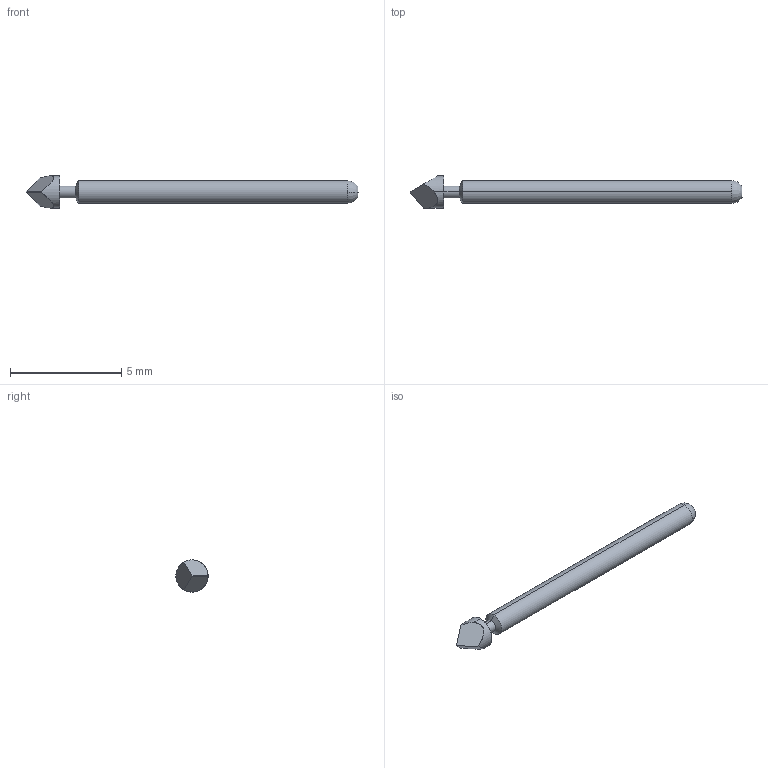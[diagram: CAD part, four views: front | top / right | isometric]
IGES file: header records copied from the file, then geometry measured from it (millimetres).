
Start section: SolidWorks IGES file using analytic representation for surfaces
Global section: file name: Z:\probe solid model mockups\Solidworks models\IGES Files\HPA-1\HPA-1T RECD.IGS; native system: SolidWorks 2006 by SolidWorks Corporation; preprocessor: SolidWorks 2006 by SolidWorks Corporation; author: tsakatani; date: 071220.112606; units: inch
Bounding box: 14.94 x 1.45 x 1.45 mm (x, y, z)
Surface area: 49.1 mm2 (no closed solid volume)
Topology: 0 solids, 0 shells, 15 faces, 144 edges, 144 vertices
Faces by surface type: revolution 10, bspline 5
